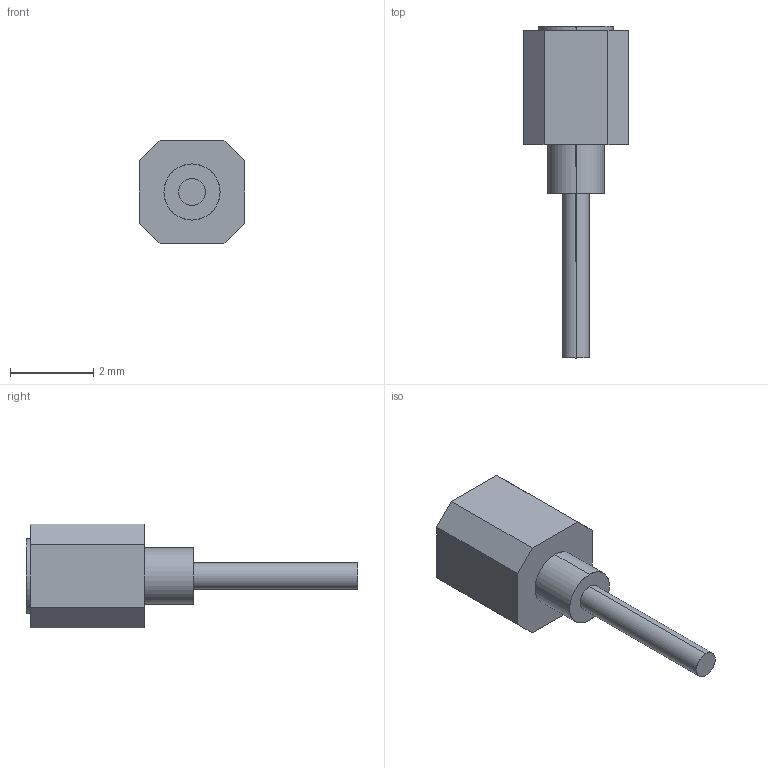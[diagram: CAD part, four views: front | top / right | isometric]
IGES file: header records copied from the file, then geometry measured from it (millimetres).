
Start section: SolidWorks IGES file using analytic representation for surfaces
Global section: file name: C:\Users\AndreBernot\Downloads\K-RACER-L_3D_SW\K-RACER-L_3D_SW\Barette tulipe par 1.IGS; native system: SolidWorks 2015; preprocessor: SolidWorks 2015; author: AndreBernot; date: 170922.150842; units: millimetre
Bounding box: 2.54 x 7.99 x 2.5 mm (x, y, z)
Surface area: 57.4 mm2 (no closed solid volume)
Topology: 0 solids, 0 shells, 22 faces, 240 edges, 240 vertices
Faces by surface type: bspline 14, revolution 8
